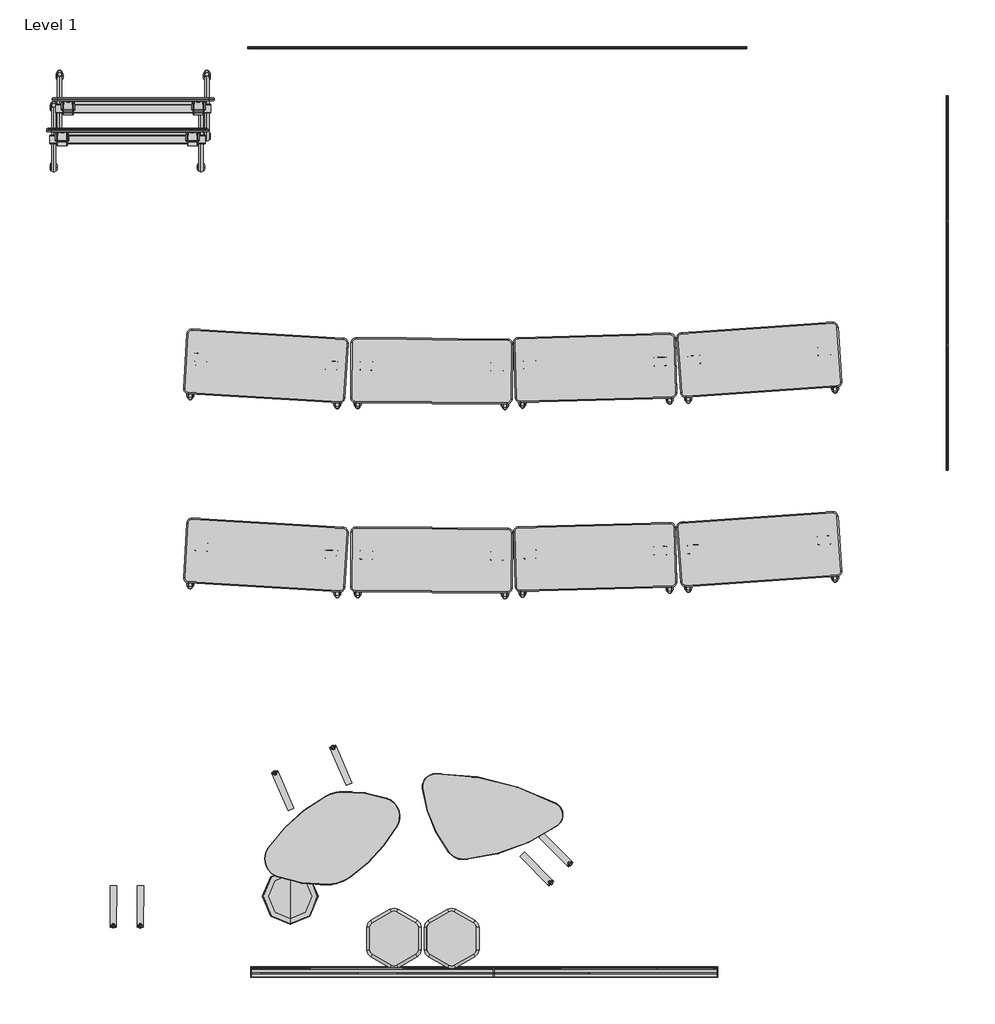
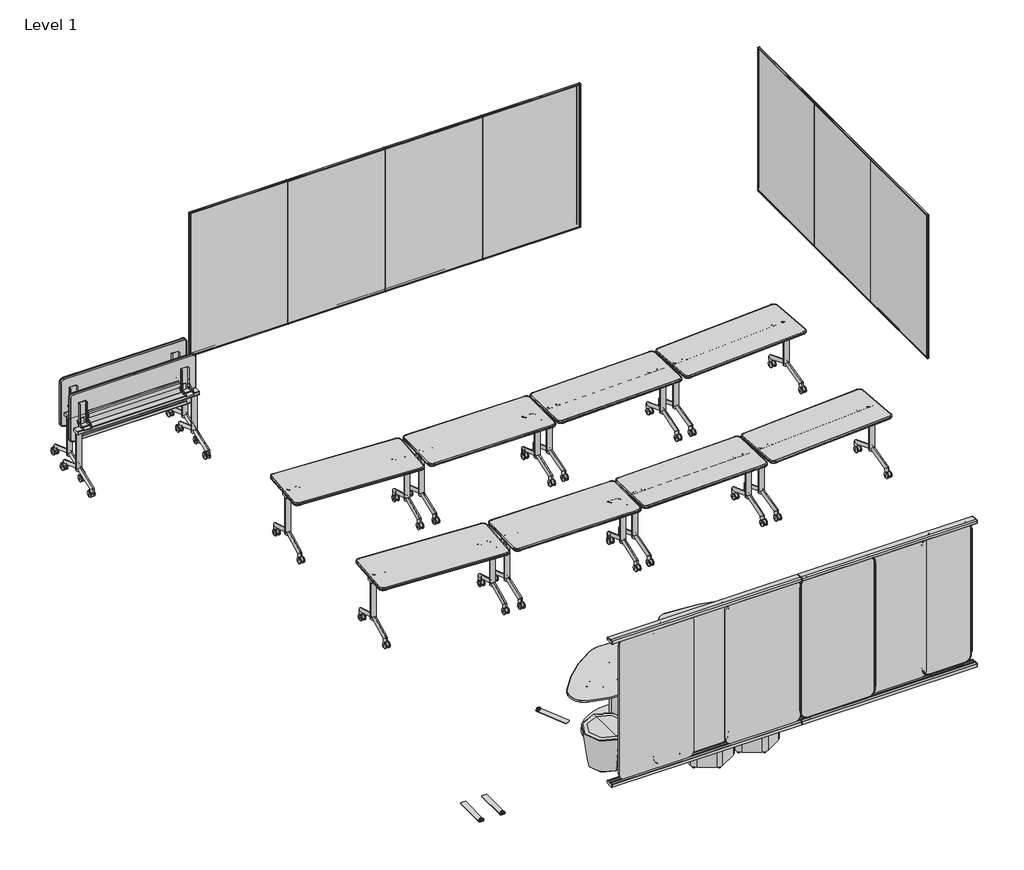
# One storey, incomplete: 33 furniture elements.
"""IFC4 building model written with IfcOpenShell, lengths in millimetres."""

from ifc_helpers import new_model, si_unit, origin, place, context, project, spatial, transform, mapped, element, save
from components import furniture_6e8593bd, furniture_3c5f1cf7, furniture_80580ba2, furniture_818722c3, furniture_cddd74b0, furniture_4304682f, furniture_49b3452a, furniture_9e63f0ef, furniture_8fbb2c6f, double_ea325dfb, ottoman_1566a61f, polyvision_accessory_board_flow_vertical_5f54c6b5, polyvision_accessory_board_flow_vertical_01536e87, polyvision_accessory_board_flow_vertical_d371d4c1, single_6dff62dc, steelcase_am_accessory_board_flex_markerboard_71h_e8a6860e, steelcase_am_accessory_board_flex_wallrail_71h_eb4e8659, steelcase_am_accessory_board_flex_wallrail_71h_04e6bd68, steelcase_am_spacedivision_screen_flex_freestanding_37f45801, steelcase_am_spacedivision_screen_flex_freestanding_69d37450, stool_93acecdb

model = new_model("IFC4")

# Units and contexts
model_context = context("Model", 3, world=origin())
ifc_project = project(units=[si_unit("LENGTHUNIT", "METRE", prefix="MILLI")], contexts=[model_context])

# Site, building, storey
site = spatial("IfcSite", under=ifc_project)
building = spatial("IfcBuilding", under=site)
storey = spatial("IfcBuildingStorey", under=building, Name="Level 1", Elevation=0.0)

# Furniture
placement = place(None, origin())
furniture_shape = furniture_6e8593bd(model_context)
furniture_2_shape = furniture_3c5f1cf7(model_context)
furniture_3_shape = furniture_80580ba2(model_context)
element("IfcFurniture", 1, ObjectType="SmithSystem_AM_Table_Education_Elemental_NestAndFold_Nested_24D : 24D x 60W", at=placement, inside=storey, context=model_context, shape_type="MappedRepresentation", body=[
    mapped(furniture_shape, transform((-69758.5000288, -44254.915592, 0.0), x_axis=(1.0, 0.0, 0.0), y_axis=(0.0, 1.0, 0.0), z_axis=(0.0, 0.0, 1.0))),
    mapped(furniture_2_shape, transform((-69758.5000288, -44254.915592, 0.0), x_axis=(1.0, 0.0, 0.0), y_axis=(0.0, 1.0, 0.0), z_axis=(0.0, 0.0, 1.0))),
    mapped(furniture_3_shape, transform((-69758.5000288, -44254.915592, 0.0), x_axis=(1.0, 0.0, 0.0), y_axis=(0.0, 1.0, 0.0), z_axis=(0.0, 0.0, 1.0))),
])
element("IfcFurniture", 2, ObjectType="SmithSystem_AM_Table_Education_Elemental_NestAndFold_Nested_24D : 24D x 60W", at=placement, inside=storey, context=model_context, shape_type="MappedRepresentation", body=[
    mapped(furniture_shape, transform((-69814.3272888, -44546.0873602, 0.0), x_axis=(1.0, 0.0, 0.0), y_axis=(0.0, 1.0, 0.0), z_axis=(0.0, 0.0, 1.0))),
    mapped(furniture_2_shape, transform((-69814.3272888, -44546.0873602, 0.0), x_axis=(1.0, 0.0, 0.0), y_axis=(0.0, 1.0, 0.0), z_axis=(0.0, 0.0, 1.0))),
    mapped(furniture_3_shape, transform((-69814.3272888, -44546.0873602, 0.0), x_axis=(1.0, 0.0, 0.0), y_axis=(0.0, 1.0, 0.0), z_axis=(0.0, 0.0, 1.0))),
])
furniture_4_shape = furniture_818722c3(model_context)
furniture_5_shape = furniture_cddd74b0(model_context)
element("IfcFurniture", 3, ObjectType="SmithSystem_AM_Table_Education_Elemental_NestAndFold_24D : 24D x 60W", at=placement, inside=storey, context=model_context, shape_type="MappedRepresentation", body=[
    mapped(furniture_4_shape, transform((-67003.4701251, -47336.7285906, 0.0), x_axis=(-0.9981852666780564, 0.06021771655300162, 0.0), y_axis=(-0.06021771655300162, -0.9981852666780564, 0.0), z_axis=(0.0, 0.0, 1.0))),
    mapped(furniture_5_shape, transform((-67003.4701251, -47336.7285906, 0.0), x_axis=(-0.9981852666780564, 0.06021771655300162, 0.0), y_axis=(-0.06021771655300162, -0.9981852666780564, 0.0), z_axis=(0.0, 0.0, 1.0))),
])
element("IfcFurniture", 4, ObjectType="SmithSystem_AM_Table_Education_Elemental_NestAndFold_24D : 24D x 60W", at=placement, inside=storey, context=model_context, shape_type="MappedRepresentation", body=[
    mapped(furniture_4_shape, transform((-63870.593636, -47288.4297882, 0.0), x_axis=(-0.9996340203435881, -0.027052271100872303, 0.0), y_axis=(0.027052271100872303, -0.9996340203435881, 0.0), z_axis=(0.0, 0.0, 1.0))),
    mapped(furniture_5_shape, transform((-63870.593636, -47288.4297882, 0.0), x_axis=(-0.9996340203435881, -0.027052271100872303, 0.0), y_axis=(0.027052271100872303, -0.9996340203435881, 0.0), z_axis=(0.0, 0.0, 1.0))),
])
element("IfcFurniture", 5, ObjectType="SmithSystem_AM_Table_Education_Elemental_NestAndFold_24D : 24D x 60W", at=placement, inside=storey, context=model_context, shape_type="MappedRepresentation", body=[
    mapped(furniture_4_shape, transform((-67003.4701251, -49120.6910692, 0.0), x_axis=(-0.9981852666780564, 0.06021771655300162, 0.0), y_axis=(-0.06021771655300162, -0.9981852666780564, 0.0), z_axis=(0.0, 0.0, 1.0))),
    mapped(furniture_5_shape, transform((-67003.4701251, -49120.6910692, 0.0), x_axis=(-0.9981852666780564, 0.06021771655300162, 0.0), y_axis=(-0.06021771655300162, -0.9981852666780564, 0.0), z_axis=(0.0, 0.0, 1.0))),
])
element("IfcFurniture", 6, ObjectType="SmithSystem_AM_Table_Education_Elemental_NestAndFold_24D : 24D x 60W", at=placement, inside=storey, context=model_context, shape_type="MappedRepresentation", body=[
    mapped(furniture_4_shape, transform((-63870.593636, -49072.3922668, 0.0), x_axis=(-0.9996340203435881, -0.027052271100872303, 0.0), y_axis=(0.027052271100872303, -0.9996340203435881, 0.0), z_axis=(0.0, 0.0, 1.0))),
    mapped(furniture_5_shape, transform((-63870.593636, -49072.3922668, 0.0), x_axis=(-0.9996340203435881, -0.027052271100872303, 0.0), y_axis=(0.027052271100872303, -0.9996340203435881, 0.0), z_axis=(0.0, 0.0, 1.0))),
])
furniture_6_shape = furniture_4304682f(model_context)
furniture_7_shape = furniture_49b3452a(model_context)
element("IfcFurniture", 7, ObjectType="SmithSystem_AM_Table_Education_Elemental_NestAndFold_24D : 24D x 60W", at=placement, inside=storey, context=model_context, shape_type="MappedRepresentation", body=[
    mapped(furniture_6_shape, transform((-66947.0968249, -47331.9591776, 0.0), x_axis=(0.999974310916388, -0.0071678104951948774, 0.0), y_axis=(0.0071678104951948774, 0.999974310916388, 0.0), z_axis=(0.0, 0.0, 1.0))),
    mapped(furniture_7_shape, transform((-66947.0968249, -47331.9591776, 0.0), x_axis=(0.999974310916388, -0.0071678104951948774, 0.0), y_axis=(0.0071678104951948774, 0.999974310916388, 0.0), z_axis=(0.0, 0.0, 1.0))),
])
element("IfcFurniture", 8, ObjectType="SmithSystem_AM_Table_Education_Elemental_NestAndFold_24D : 24D x 60W", at=placement, inside=storey, context=model_context, shape_type="MappedRepresentation", body=[
    mapped(furniture_6_shape, transform((-63831.4987737, -47286.5495941, 0.0), x_axis=(0.9976165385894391, 0.06900175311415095, 0.0), y_axis=(-0.06900175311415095, 0.9976165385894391, 0.0), z_axis=(0.0, 0.0, 1.0))),
    mapped(furniture_7_shape, transform((-63831.4987737, -47286.5495941, 0.0), x_axis=(0.9976165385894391, 0.06900175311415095, 0.0), y_axis=(-0.06900175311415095, 0.9976165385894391, 0.0), z_axis=(0.0, 0.0, 1.0))),
])
element("IfcFurniture", 9, ObjectType="SmithSystem_AM_Table_Education_Elemental_NestAndFold_24D : 24D x 60W", at=placement, inside=storey, context=model_context, shape_type="MappedRepresentation", body=[
    mapped(furniture_6_shape, transform((-66947.0968249, -49115.9216562, 0.0), x_axis=(0.999974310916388, -0.0071678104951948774, 0.0), y_axis=(0.0071678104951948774, 0.999974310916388, 0.0), z_axis=(0.0, 0.0, 1.0))),
    mapped(furniture_7_shape, transform((-66947.0968249, -49115.9216562, 0.0), x_axis=(0.999974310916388, -0.0071678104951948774, 0.0), y_axis=(0.0071678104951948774, 0.999974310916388, 0.0), z_axis=(0.0, 0.0, 1.0))),
])
element("IfcFurniture", 10, ObjectType="SmithSystem_AM_Table_Education_Elemental_NestAndFold_24D : 24D x 60W", at=placement, inside=storey, context=model_context, shape_type="MappedRepresentation", body=[
    mapped(furniture_6_shape, transform((-63831.4987737, -49070.5120727, 0.0), x_axis=(0.9976165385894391, 0.06900175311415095, 0.0), y_axis=(-0.06900175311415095, 0.9976165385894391, 0.0), z_axis=(0.0, 0.0, 1.0))),
    mapped(furniture_7_shape, transform((-63831.4987737, -49070.5120727, 0.0), x_axis=(0.9976165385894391, 0.06900175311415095, 0.0), y_axis=(-0.06900175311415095, 0.9976165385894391, 0.0), z_axis=(0.0, 0.0, 1.0))),
])
furniture_8_shape = furniture_9e63f0ef(model_context)
element("IfcFurniture", 11, ObjectType="SmithSystem_AM_Table_Education_Flowform_LearnLounge_OffsetRectangle : NoPower", at=placement, inside=storey, context=model_context, shape_type="MappedRepresentation", body=[
    mapped(furniture_8_shape, transform((-67112.3556681, -51451.8498656, 0.0), x_axis=(-0.9161316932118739, -0.40087743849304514, 0.0), y_axis=(0.40087743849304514, -0.9161316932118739, 0.0), z_axis=(0.0, 0.0, 1.0))),
])
furniture_9_shape = furniture_8fbb2c6f(model_context)
element("IfcFurniture", 12, ObjectType="SmithSystem_AM_Table_Education_Flowform_LearnLounge_OffsetTriangle : NoPower", at=placement, inside=storey, context=model_context, shape_type="MappedRepresentation", body=[
    mapped(furniture_9_shape, transform((-65637.7507302, -51215.2397165, 0.0), x_axis=(-0.9707322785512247, 0.2401642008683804, 0.0), y_axis=(-0.2401642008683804, -0.9707322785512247, 0.0), z_axis=(0.0, 0.0, 1.0))),
])
double_shape = double_ea325dfb(model_context)
element("IfcFurniture", 13, ObjectType="SmithSystem_AM_Seating_Education_Flowform_LearnLounge_MobileKit_Double : Double", at=placement, inside=storey, context=model_context, shape_type="MappedRepresentation", body=[
    mapped(double_shape, transform((-67288.1561792, -50927.7444712, 0.0), x_axis=(0.916131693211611, 0.4008774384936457, 0.0), y_axis=(-0.4008774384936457, 0.916131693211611, 0.0), z_axis=(0.0, 0.0, 1.0))),
])
ottoman_shape = ottoman_1566a61f(model_context)
element("IfcFurniture", 14, ObjectType="SmithSystem_AM_Seating_Education_Flowform_Ottoman_Hexagon : Ottoman", at=placement, inside=storey, context=model_context, shape_type="MappedRepresentation", body=[
    mapped(ottoman_shape, transform((-66537.082615, -52387.0388541, 0.0), x_axis=(1.0, 0.0, 0.0), y_axis=(0.0, 1.0, 0.0), z_axis=(0.0, 0.0, 1.0))),
])
element("IfcFurniture", 15, ObjectType="SmithSystem_AM_Seating_Education_Flowform_Ottoman_Hexagon : Ottoman", at=placement, inside=storey, context=model_context, shape_type="MappedRepresentation", body=[
    mapped(ottoman_shape, transform((-65993.561981, -52387.0388541, 0.0), x_axis=(1.0, 0.0, 0.0), y_axis=(0.0, 1.0, 0.0), z_axis=(0.0, 0.0, 1.0))),
])
polyvision_accessory_board_flow_vertical_shape = polyvision_accessory_board_flow_vertical_5f54c6b5(model_context)
element("IfcFurniture", 16, ObjectType="PolyVision_Accessory_Board_Flow_Vertical : 47W x 72H (1185 W x 1830 H)", at=placement, inside=storey, context=model_context, shape_type="MappedRepresentation", body=[
    mapped(polyvision_accessory_board_flow_vertical_shape, transform((-61321.8519537, -45030.3523431, 533.4), x_axis=(0.0, -1.0, 0.0), y_axis=(1.0, 0.0, 0.0), z_axis=(0.0, 0.0, 1.0))),
])
element("IfcFurniture", 17, ObjectType="PolyVision_Accessory_Board_Flow_Vertical : 47W x 72H (1185 W x 1830 H)", at=placement, inside=storey, context=model_context, shape_type="MappedRepresentation", body=[
    mapped(polyvision_accessory_board_flow_vertical_shape, transform((-67323.7526024, -43986.4866203, 457.2), x_axis=(1.0, 0.0, 0.0), y_axis=(0.0, 1.0, 0.0), z_axis=(0.0, 0.0, 1.0))),
])
polyvision_accessory_board_flow_vertical_2_shape = polyvision_accessory_board_flow_vertical_01536e87(model_context)
element("IfcFurniture", 18, ObjectType="PolyVision_Accessory_Board_Flow_Vertical : 47W x 72H (1185 W x 1830 H)", at=placement, inside=storey, context=model_context, shape_type="MappedRepresentation", body=[
    mapped(polyvision_accessory_board_flow_vertical_2_shape, transform((-61321.8519537, -46204.486736, 533.4), x_axis=(0.0, -1.0, 0.0), y_axis=(1.0, 0.0, 0.0), z_axis=(0.0, 0.0, 1.0))),
])
element("IfcFurniture", 19, ObjectType="PolyVision_Accessory_Board_Flow_Vertical : 47W x 72H (1185 W x 1830 H)", at=placement, inside=storey, context=model_context, shape_type="MappedRepresentation", body=[
    mapped(polyvision_accessory_board_flow_vertical_2_shape, transform((-66149.6182095, -43986.4866203, 457.2), x_axis=(1.0, 0.0, 0.0), y_axis=(0.0, 1.0, 0.0), z_axis=(0.0, 0.0, 1.0))),
])
element("IfcFurniture", 20, ObjectType="PolyVision_Accessory_Board_Flow_Vertical : 47W x 72H (1185 W x 1830 H)", at=placement, inside=storey, context=model_context, shape_type="MappedRepresentation", body=[
    mapped(polyvision_accessory_board_flow_vertical_2_shape, transform((-64975.4838167, -43986.4866203, 457.2), x_axis=(1.0, 0.0, 0.0), y_axis=(0.0, 1.0, 0.0), z_axis=(0.0, 0.0, 1.0))),
])
polyvision_accessory_board_flow_vertical_3_shape = polyvision_accessory_board_flow_vertical_d371d4c1(model_context)
element("IfcFurniture", 21, ObjectType="PolyVision_Accessory_Board_Flow_Vertical : 47W x 72H (1185 W x 1830 H)", at=placement, inside=storey, context=model_context, shape_type="MappedRepresentation", body=[
    mapped(polyvision_accessory_board_flow_vertical_3_shape, transform((-61321.8519537, -47378.6211288, 533.4), x_axis=(0.0, -1.0, 0.0), y_axis=(1.0, 0.0, 0.0), z_axis=(0.0, 0.0, 1.0))),
])
element("IfcFurniture", 22, ObjectType="PolyVision_Accessory_Board_Flow_Vertical : 47W x 72H (1185 W x 1830 H)", at=placement, inside=storey, context=model_context, shape_type="MappedRepresentation", body=[
    mapped(polyvision_accessory_board_flow_vertical_3_shape, transform((-63801.3494238, -43986.4866203, 457.2), x_axis=(1.0, 0.0, 0.0), y_axis=(0.0, 1.0, 0.0), z_axis=(0.0, 0.0, 1.0))),
])
single_shape = single_6dff62dc(model_context)
element("IfcFurniture", 23, ObjectType="SmithSystem_AM_Seating_Education_Flowform_LearnLounge_MobileKit_Single : Single", at=placement, inside=storey, context=model_context, shape_type="MappedRepresentation", body=[
    mapped(single_shape, transform((-65114.2693919, -51626.7790837, 0.0), x_axis=(-0.7099425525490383, -0.7042595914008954, 0.0), y_axis=(0.7042595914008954, -0.7099425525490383, 0.0), z_axis=(0.0, 0.0, 1.0))),
])
element("IfcFurniture", 24, ObjectType="SmithSystem_AM_Seating_Education_Flowform_LearnLounge_MobileKit_Single : Single", at=placement, inside=storey, context=model_context, shape_type="MappedRepresentation", body=[
    mapped(single_shape, transform((-69056.8489943, -52064.1112754, 0.0), x_axis=(-0.999991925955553, 0.0040184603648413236, 0.0), y_axis=(-0.0040184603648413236, -0.999991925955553, 0.0), z_axis=(0.0, 0.0, 1.0))),
])
steelcase_am_accessory_board_flex_markerboard_71h_shape = steelcase_am_accessory_board_flex_markerboard_71h_e8a6860e(model_context)
element("IfcFurniture", 25, ObjectType="Steelcase_AM_Accessory_Board_Flex_Markerboard : 71H", at=placement, inside=storey, context=model_context, shape_type="MappedRepresentation", body=[
    mapped(steelcase_am_accessory_board_flex_markerboard_71h_shape, transform((-64959.7530436, -52665.6178025, 302.4062228), x_axis=(1.0, 0.0, 0.0), y_axis=(0.0, 1.0, 0.0), z_axis=(0.0, 0.0, 1.0))),
])
element("IfcFurniture", 26, ObjectType="Steelcase_AM_Accessory_Board_Flex_Markerboard : 71H", at=placement, inside=storey, context=model_context, shape_type="MappedRepresentation", body=[
    mapped(steelcase_am_accessory_board_flex_markerboard_71h_shape, transform((-66502.0073482, -52707.8484494, 302.4062228), x_axis=(1.0, 0.0, 0.0), y_axis=(0.0, 1.0, 0.0), z_axis=(0.0, 0.0, 1.0))),
])
element("IfcFurniture", 27, ObjectType="Steelcase_AM_Accessory_Board_Flex_Markerboard : 71H", at=placement, inside=storey, context=model_context, shape_type="MappedRepresentation", body=[
    mapped(steelcase_am_accessory_board_flex_markerboard_71h_shape, transform((-67783.2886543, -52707.8484494, 302.4062228), x_axis=(1.0, 0.0, 0.0), y_axis=(0.0, 1.0, 0.0), z_axis=(0.0, 0.0, 1.0))),
])
steelcase_am_accessory_board_flex_wallrail_71h_shape = steelcase_am_accessory_board_flex_wallrail_71h_eb4e8659(model_context)
element("IfcFurniture", 28, ObjectType="Steelcase_AM_Accessory_Board_Flex_WallRail : 71H", at=placement, inside=storey, context=model_context, shape_type="MappedRepresentation", body=[
    mapped(steelcase_am_accessory_board_flex_wallrail_71h_shape, transform((-65594.2302385, -52754.0764494, 0.0), x_axis=(-1.0, 0.0, 0.0), y_axis=(0.0, -1.0, 0.0), z_axis=(0.0, 0.0, 1.0))),
])
steelcase_am_accessory_board_flex_wallrail_71h_2_shape = steelcase_am_accessory_board_flex_wallrail_71h_04e6bd68(model_context)
element("IfcFurniture", 29, ObjectType="Steelcase_AM_Accessory_Board_Flex_WallRail : 71H", at=placement, inside=storey, context=model_context, shape_type="MappedRepresentation", body=[
    mapped(steelcase_am_accessory_board_flex_wallrail_71h_2_shape, transform((-65604.2017229, -52754.0764494, 0.0), x_axis=(1.0, 0.0, 0.0), y_axis=(0.0, 1.0, 0.0), z_axis=(0.0, 0.0, 1.0))),
])
steelcase_am_spacedivision_screen_flex_freestanding_shape = steelcase_am_spacedivision_screen_flex_freestanding_37f45801(model_context)
element("IfcFurniture", 30, ObjectType="Steelcase_AM_SpaceDivision_Screen_Flex_Freestanding : 71H x 24W", at=placement, inside=storey, context=model_context, shape_type="MappedRepresentation", body=[
    mapped(steelcase_am_spacedivision_screen_flex_freestanding_shape, transform((-64114.4696568, -52672.0948025, 302.4062228), x_axis=(1.0, 0.0, 0.0), y_axis=(0.0, 1.0, 0.0), z_axis=(0.0, 0.0, 1.0))),
])
steelcase_am_spacedivision_screen_flex_freestanding_2_shape = steelcase_am_spacedivision_screen_flex_freestanding_69d37450(model_context)
element("IfcFurniture", 31, ObjectType="Steelcase_AM_SpaceDivision_Screen_Flex_Freestanding : 71H x 36W", at=placement, inside=storey, context=model_context, shape_type="MappedRepresentation", body=[
    mapped(steelcase_am_spacedivision_screen_flex_freestanding_2_shape, transform((-67345.6424179, -52670.5073025, 302.4062228), x_axis=(1.0, 0.0, 0.0), y_axis=(0.0, 1.0, 0.0), z_axis=(0.0, 0.0, 1.0))),
])
element("IfcFurniture", 32, ObjectType="Steelcase_AM_SpaceDivision_Screen_Flex_Freestanding : 71H x 36W", at=placement, inside=storey, context=model_context, shape_type="MappedRepresentation", body=[
    mapped(steelcase_am_spacedivision_screen_flex_freestanding_2_shape, transform((-65603.7986568, -52714.0524275, 302.4062228), x_axis=(1.0, 0.0, 0.0), y_axis=(0.0, 1.0, 0.0), z_axis=(0.0, 0.0, 1.0))),
])
stool_shape = stool_93acecdb(model_context)
element("IfcFurniture", 33, ObjectType="SmithSystem_AM_Seating_Education_Flowform_TaperedCylinderStool : Stool", at=placement, inside=storey, context=model_context, shape_type="MappedRepresentation", body=[
    mapped(stool_shape, transform((-67515.5474648, -51989.8281592, 0.0), x_axis=(1.0, 0.0, 0.0), y_axis=(0.0, 1.0, 0.0), z_axis=(0.0, 0.0, 1.0))),
])

save(model, "model.ifc")
